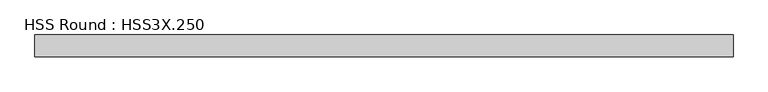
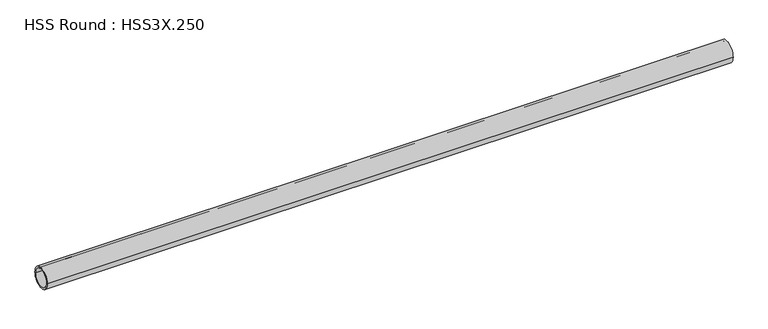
"""IFC4 building model written with IfcOpenShell, lengths in millimetres: member geometry, HSS Round : HSS3X.250."""

from ifc_helpers import new_model, si_unit, point, frame, origin, origin_2d, place, context, project, spatial, circle_curve, trimmed, segment, composite_curve, outline, extrude, source, transform, mapped, element, save


def hss_round_hss3x_250_542ee6f0(model_context):
    return source(origin(), model_context, "Body", "SweptSolid", [
        extrude(outline(composite_curve([segment(trimmed(circle_curve(origin_2d(), 38.1), [point((-38.1, 0.0))], [point((38.1, 0.0))], False, "CARTESIAN"), True, "CONTINUOUS"), segment(trimmed(circle_curve(origin_2d(), 38.1), [point((38.1, 0.0))], [point((-38.1, 0.0))], False, "CARTESIAN"), True, "CONTINUOUS")], self_intersect=False), holes=[composite_curve([segment(trimmed(circle_curve(origin_2d(), 31.75), [point((31.75, 0.0))], [point((-31.75, 0.0))], True, "CARTESIAN"), True, "CONTINUOUS"), segment(trimmed(circle_curve(origin_2d(), 31.75), [point((-31.75, 0.0))], [point((31.75, 0.0))], True, "CARTESIAN"), True, "CONTINUOUS")], self_intersect=False)]), frame((-1193.8066515, 0.0, 0.0), z_axis=(1.0, 0.0, 0.0), x_axis=(0.0, 1.0, 0.0)), (0.0, 0.0, 1.0), 2453.0355447),
    ])


if __name__ == "__main__":
    model = new_model("IFC4")
    model_context = context("Model", 3, world=origin())
    ifc_project = project(units=[si_unit("LENGTHUNIT", "METRE", prefix="MILLI")], contexts=[model_context])
    site = spatial("IfcSite", under=ifc_project)
    building = spatial("IfcBuilding", under=site)
    placement = place(None, origin())
    hss_round_hss3x_250_shape = hss_round_hss3x_250_542ee6f0(model_context)
    element("IfcMember", 1, ObjectType="HSS Round : HSS3X.250", at=placement, inside=building, context=model_context, shape_type="MappedRepresentation", body=[
        mapped(hss_round_hss3x_250_shape, transform((0.0, 0.0, 0.0), x_axis=(1.0, 0.0, 0.0), y_axis=(0.0, 1.0, 0.0), z_axis=(0.0, 0.0, 1.0))),
    ])
    save(model, "model.ifc")
